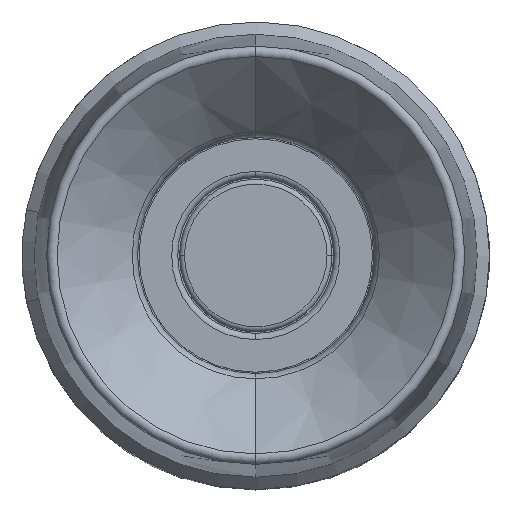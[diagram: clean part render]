
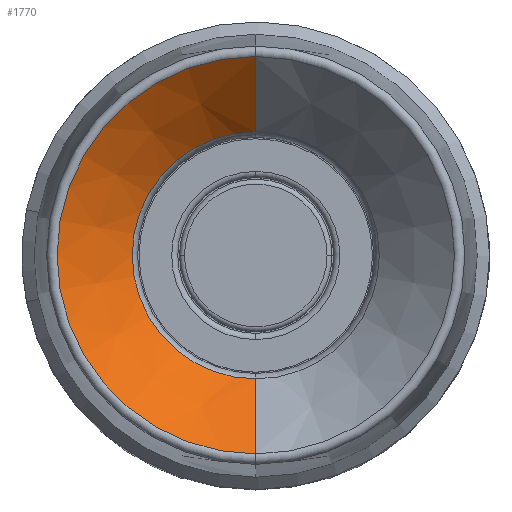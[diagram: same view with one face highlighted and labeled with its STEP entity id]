
A CAD part, top view. The second image highlights one B-rep face of the part: STEP entity #1770.
In plain terms, the highlighted conical face has half-angle 45 degrees and reference radius 13.093 mm.
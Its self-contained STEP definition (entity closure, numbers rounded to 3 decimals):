
#1405=CARTESIAN_POINT('',(0.,0.,56.164));
#1406=DIRECTION('',(0.,0.,1.));
#1407=DIRECTION('',(0.,1.,0.));
#1408=AXIS2_PLACEMENT_3D('',#1405,#1406,#1407);
#1410=DIRECTION('',(0.,0.707,-0.707));
#1411=VECTOR('',#1410,8.637);
#1412=CARTESIAN_POINT('',(0.,-16.146,62.271));
#1413=LINE('',#1412,#1411);
#1414=CARTESIAN_POINT('',(0.,0.,62.271));
#1415=DIRECTION('',(0.,0.,1.));
#1416=DIRECTION('',(0.,1.,0.));
#1417=AXIS2_PLACEMENT_3D('',#1414,#1415,#1416);
#1419=DIRECTION('',(0.,-0.707,-0.707));
#1420=VECTOR('',#1419,8.637);
#1421=CARTESIAN_POINT('',(0.,16.146,62.271));
#1422=LINE('',#1421,#1420);
#1455=CARTESIAN_POINT('',(0.,-10.039,56.164));
#1456=CARTESIAN_POINT('',(0.,10.039,56.164));
#1457=VERTEX_POINT('',#1455);
#1458=VERTEX_POINT('',#1456);
#1460=CARTESIAN_POINT('',(0.,16.146,62.271));
#1462=VERTEX_POINT('',#1460);
#1464=CARTESIAN_POINT('',(0.,-16.146,62.271));
#1466=VERTEX_POINT('',#1464);
#1759=CARTESIAN_POINT('',(0.,0.,59.218));
#1760=DIRECTION('',(0.,0.,1.));
#1761=DIRECTION('',(0.,1.,0.));
#1762=AXIS2_PLACEMENT_3D('',#1759,#1760,#1761);
#1763=CONICAL_SURFACE('',#1762,13.093,45.);
#1764=ORIENTED_EDGE('',*,*,#1495,.T.);
#1765=ORIENTED_EDGE('',*,*,#1754,.F.);
#1766=ORIENTED_EDGE('',*,*,#1724,.F.);
#1767=ORIENTED_EDGE('',*,*,#1751,.T.);
#1768=EDGE_LOOP('',(#1764,#1765,#1766,#1767));
#1769=FACE_OUTER_BOUND('',#1768,.F.);
#1770=ADVANCED_FACE('',(#1769),#1763,.F.);
#1409=CIRCLE('',#1408,10.039);
#1418=CIRCLE('',#1417,16.146);
#1495=EDGE_CURVE('',#1458,#1457,#1409,.T.);
#1724=EDGE_CURVE('',#1462,#1466,#1418,.T.);
#1751=EDGE_CURVE('',#1462,#1458,#1422,.T.);
#1754=EDGE_CURVE('',#1466,#1457,#1413,.T.);
